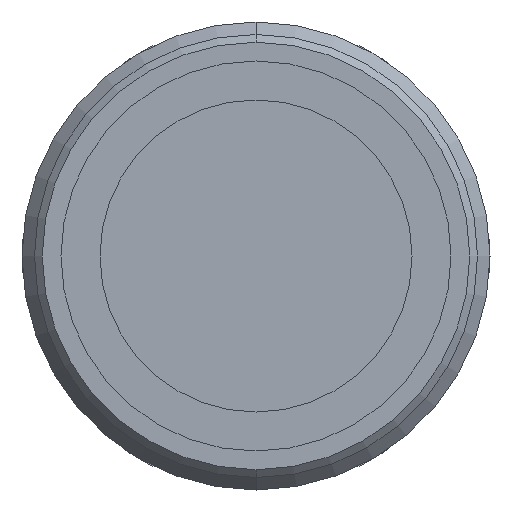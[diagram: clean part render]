
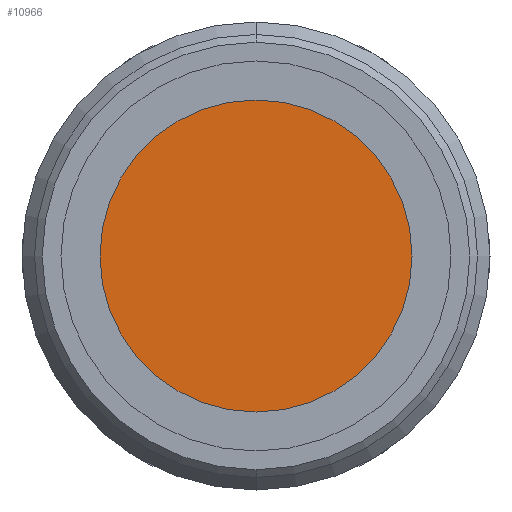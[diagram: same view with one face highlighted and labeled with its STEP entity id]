
A CAD part, front view. The second image highlights one B-rep face of the part: STEP entity #10966.
In plain terms, the highlighted planar face has unit normal (0, -1, 0).
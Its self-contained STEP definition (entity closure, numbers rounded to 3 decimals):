
#1692 = FACE_OUTER_BOUND ( 'NONE', #7810, .T. ) ;
#2210 = CARTESIAN_POINT ( 'NONE',  ( 0., -28.399, 0. ) ) ;
#3166 = AXIS2_PLACEMENT_3D ( 'NONE', #2210, #9225, #3249 ) ;
#3249 = DIRECTION ( 'NONE',  ( 0., 0., -1. ) ) ;
#3315 = DIRECTION ( 'NONE',  ( 0., 1., 0. ) ) ;
#3476 = VERTEX_POINT ( 'NONE', #9191 ) ;
#3846 = ORIENTED_EDGE ( 'NONE', *, *, #9273, .T. ) ;
#4531 = CIRCLE ( 'NONE', #11983, 10. ) ;
#5257 = CARTESIAN_POINT ( 'NONE',  ( 0., -28.399, -10. ) ) ;
#5609 = CARTESIAN_POINT ( 'NONE',  ( 0., -28.399, 0. ) ) ;
#6257 = CARTESIAN_POINT ( 'NONE',  ( -10., -28.399, 0. ) ) ;
#6410 = CIRCLE ( 'NONE', #3166, 10. ) ;
#6609 = DIRECTION ( 'NONE',  ( 0., 0., -1. ) ) ;
#7392 = ORIENTED_EDGE ( 'NONE', *, *, #8967, .T. ) ;
#7810 = EDGE_LOOP ( 'NONE', ( #3846, #7392 ) ) ;
#8967 = EDGE_CURVE ( 'NONE', #3476, #10996, #6410, .T. ) ;
#9191 = CARTESIAN_POINT ( 'NONE',  ( 0., -28.399, 10. ) ) ;
#9225 = DIRECTION ( 'NONE',  ( 0., -1., 0. ) ) ;
#9273 = EDGE_CURVE ( 'NONE', #10996, #3476, #4531, .T. ) ;
#9303 = PLANE ( 'NONE',  #10496 ) ;
#10334 = DIRECTION ( 'NONE',  ( 0., 0., 1. ) ) ;
#10496 = AXIS2_PLACEMENT_3D ( 'NONE', #6257, #3315, #10334 ) ;
#10966 = ADVANCED_FACE ( 'NONE', ( #1692 ), #9303, .F. ) ;
#10996 = VERTEX_POINT ( 'NONE', #5257 ) ;
#11983 = AXIS2_PLACEMENT_3D ( 'NONE', #5609, #12748, #6609 ) ;
#12748 = DIRECTION ( 'NONE',  ( 0., -1., 0. ) ) ;
